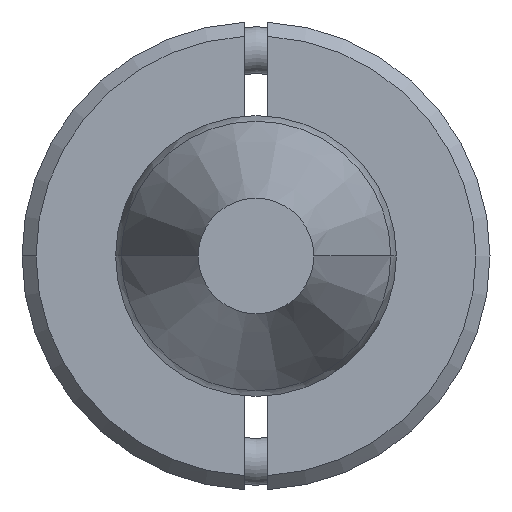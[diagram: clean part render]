
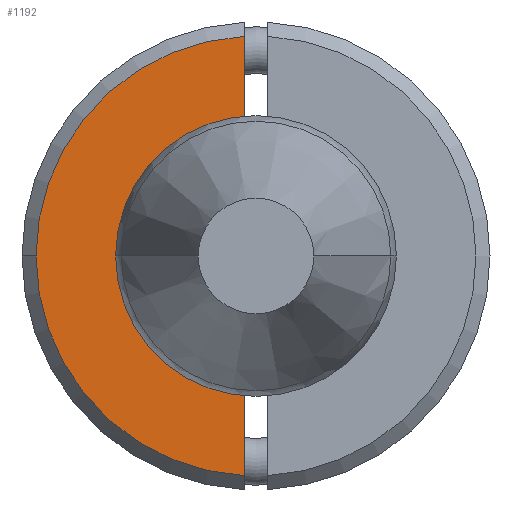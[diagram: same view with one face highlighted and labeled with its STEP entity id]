
A CAD part, front view. The second image highlights one B-rep face of the part: STEP entity #1192.
In plain terms, the highlighted planar face has unit normal (0, -1, 0).
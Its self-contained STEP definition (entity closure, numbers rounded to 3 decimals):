
#21 = EDGE_CURVE ( 'NONE', #44, #85, #1610, .T. ) ;
#44 = VERTEX_POINT ( 'NONE', #658 ) ;
#70 = DIRECTION ( 'NONE',  ( 0., -1., 0. ) ) ;
#85 = VERTEX_POINT ( 'NONE', #393 ) ;
#91 = CARTESIAN_POINT ( 'NONE',  ( -5., -6., 0. ) ) ;
#142 = VERTEX_POINT ( 'NONE', #1972 ) ;
#252 = AXIS2_PLACEMENT_3D ( 'NONE', #91, #416, #1586 ) ;
#258 = ORIENTED_EDGE ( 'NONE', *, *, #21, .T. ) ;
#275 = VERTEX_POINT ( 'NONE', #516 ) ;
#393 = CARTESIAN_POINT ( 'NONE',  ( 0., -6., 4.7 ) ) ;
#401 = LINE ( 'NONE', #3020, #2501 ) ;
#416 = DIRECTION ( 'NONE',  ( 0., -1., 0. ) ) ;
#451 = ORIENTED_EDGE ( 'NONE', *, *, #541, .F. ) ;
#516 = CARTESIAN_POINT ( 'NONE',  ( -4.693, -6., 0.25 ) ) ;
#541 = EDGE_CURVE ( 'NONE', #142, #275, #401, .T. ) ;
#656 = DIRECTION ( 'NONE',  ( 0., 0., -1. ) ) ;
#658 = CARTESIAN_POINT ( 'NONE',  ( 4.693, -6., 0.25 ) ) ;
#718 = CARTESIAN_POINT ( 'NONE',  ( -5., -6., 0.25 ) ) ;
#1028 = EDGE_LOOP ( 'NONE', ( #3703, #258, #1774, #451, #2826 ) ) ;
#1083 = FACE_OUTER_BOUND ( 'NONE', #1028, .T. ) ;
#1192 = ADVANCED_FACE ( 'NONE', ( #1083 ), #2850, .T. ) ;
#1264 = DIRECTION ( 'NONE',  ( 0., 1., 0. ) ) ;
#1492 = AXIS2_PLACEMENT_3D ( 'NONE', #1751, #3522, #2657 ) ;
#1561 = CIRCLE ( 'NONE', #1877, 4.7 ) ;
#1586 = DIRECTION ( 'NONE',  ( 0., 0., -1. ) ) ;
#1610 = CIRCLE ( 'NONE', #1492, 4.7 ) ;
#1705 = EDGE_CURVE ( 'NONE', #44, #3802, #3074, .T. ) ;
#1740 = VECTOR ( 'NONE', #2491, 1000. ) ;
#1751 = CARTESIAN_POINT ( 'NONE',  ( 0., -6., 0. ) ) ;
#1774 = ORIENTED_EDGE ( 'NONE', *, *, #2951, .T. ) ;
#1877 = AXIS2_PLACEMENT_3D ( 'NONE', #2167, #70, #656 ) ;
#1972 = CARTESIAN_POINT ( 'NONE',  ( -2.437, -6., 0.25 ) ) ;
#1981 = CIRCLE ( 'NONE', #3405, 2.45 ) ;
#2167 = CARTESIAN_POINT ( 'NONE',  ( 0., -6., 0. ) ) ;
#2491 = DIRECTION ( 'NONE',  ( -1., 0., 0. ) ) ;
#2501 = VECTOR ( 'NONE', #2779, 1000. ) ;
#2657 = DIRECTION ( 'NONE',  ( 0., 0., -1. ) ) ;
#2683 = CARTESIAN_POINT ( 'NONE',  ( 2.437, -6., 0.25 ) ) ;
#2779 = DIRECTION ( 'NONE',  ( -1., 0., 0. ) ) ;
#2826 = ORIENTED_EDGE ( 'NONE', *, *, #3822, .T. ) ;
#2850 = PLANE ( 'NONE',  #252 ) ;
#2951 = EDGE_CURVE ( 'NONE', #85, #275, #1561, .T. ) ;
#3020 = CARTESIAN_POINT ( 'NONE',  ( -5., -6., 0.25 ) ) ;
#3023 = DIRECTION ( 'NONE',  ( 0., 0., -1. ) ) ;
#3074 = LINE ( 'NONE', #718, #1740 ) ;
#3280 = CARTESIAN_POINT ( 'NONE',  ( 0., -6., 0. ) ) ;
#3405 = AXIS2_PLACEMENT_3D ( 'NONE', #3280, #1264, #3023 ) ;
#3522 = DIRECTION ( 'NONE',  ( 0., -1., 0. ) ) ;
#3703 = ORIENTED_EDGE ( 'NONE', *, *, #1705, .F. ) ;
#3802 = VERTEX_POINT ( 'NONE', #2683 ) ;
#3822 = EDGE_CURVE ( 'NONE', #142, #3802, #1981, .T. ) ;
